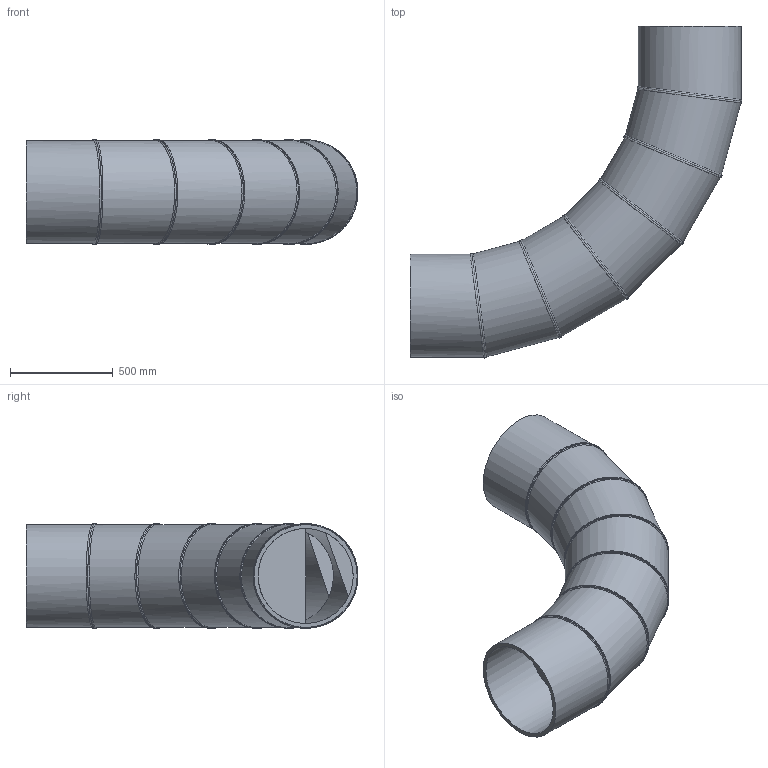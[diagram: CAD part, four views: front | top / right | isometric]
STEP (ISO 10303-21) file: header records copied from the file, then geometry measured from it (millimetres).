
FILE_DESCRIPTION(/* description */ ('Unknown'),/* implementation_level */ '2;1');
FILE_NAME(/* name */ 'Curva 90° a settore DE500 SDR26',/* time_stamp */ '2022-07-27T09:52:58+02:00',/* author */ ('Unknown'),/* organization */ ('Unknown'),/* preprocessor_version */ 'ST-DEVELOPER v18.102',/* originating_system */ 'Solid Edge',/* authorisation */ 'Unknown');
FILE_SCHEMA (('AUTOMOTIVE_DESIGN {1 0 10303 214 3 1 1}'));
Length unit declared in the file: millimetre
Products named in the file (3): Curva 90° a settore DE500 SDR26; Tubo x Gomito 90° DE500 SDR26 - 2; Tubo x Gomito 90° DE500 SDR26 - 1
Assembly tree (7 placements, depth 2):
  Curva 90° a settore DE500 SDR26
    Tubo x Gomito 90° DE500 SDR26 - 2  x5
    Tubo x Gomito 90° DE500 SDR26 - 1  x2
Bounding box: 1611.97 x 1611.97 x 507.98 mm (x, y, z)
Volume: 64538119.4 mm3; surface area: 7203605.3 mm2
Topology: 7 solids, 7 shells, 64 faces, 143 edges, 93 vertices
Faces by surface type: cylinder 38, plane 14, bspline 12
Full cylindrical faces by diameter (mm): 461.8 x7, 500 x7
Entity records: 2504 total; most frequent: CARTESIAN_POINT 2081, DIRECTION 78, ORIENTED_EDGE 52, AXIS2_PLACEMENT_3D 39, EDGE_LOOP 28, FACE_BOUND 28, EDGE_CURVE 26, VERTEX_POINT 20
